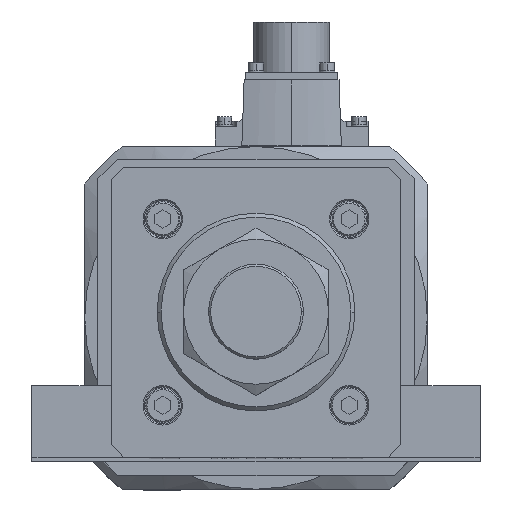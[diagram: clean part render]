
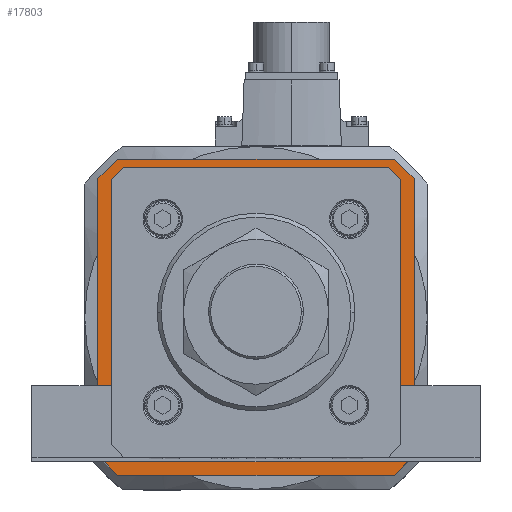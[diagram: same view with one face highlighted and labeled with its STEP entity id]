
A CAD part, top view. The second image highlights one B-rep face of the part: STEP entity #17803.
In plain terms, the highlighted planar face has unit normal (0, 0, 1).
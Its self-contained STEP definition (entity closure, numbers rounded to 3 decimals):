
#68 = CARTESIAN_POINT ( 'NONE',  ( 60., 52.5, -119. ) ) ;
#411 = ORIENTED_EDGE ( 'NONE', *, *, #23136, .F. ) ;
#505 = CARTESIAN_POINT ( 'NONE',  ( 60., -52.5, -119. ) ) ;
#567 = VECTOR ( 'NONE', #23790, 1000. ) ;
#707 = VECTOR ( 'NONE', #29341, 1000. ) ;
#949 = VECTOR ( 'NONE', #13356, 1000. ) ;
#970 = CARTESIAN_POINT ( 'NONE',  ( 49.446, -53.646, -119. ) ) ;
#1115 = VECTOR ( 'NONE', #6054, 1000. ) ;
#1549 = EDGE_CURVE ( 'NONE', #11438, #14256, #17609, .T. ) ;
#1557 = FACE_BOUND ( 'NONE', #22955, .T. ) ;
#1819 = EDGE_CURVE ( 'NONE', #15471, #25434, #36256, .T. ) ;
#2141 = LINE ( 'NONE', #33717, #27621 ) ;
#2381 = CARTESIAN_POINT ( 'NONE',  ( 60., -52.5, -119. ) ) ;
#2501 = VECTOR ( 'NONE', #27938, 1000. ) ;
#2862 = AXIS2_PLACEMENT_3D ( 'NONE', #23401, #20747, #9029 ) ;
#3210 = VERTEX_POINT ( 'NONE', #9204 ) ;
#3844 = LINE ( 'NONE', #19554, #2501 ) ;
#4178 = LINE ( 'NONE', #4957, #34235 ) ;
#4507 = CARTESIAN_POINT ( 'NONE',  ( -53.5, -49.593, -119. ) ) ;
#4801 = CARTESIAN_POINT ( 'NONE',  ( 53.5, -49.8, -119. ) ) ;
#4957 = CARTESIAN_POINT ( 'NONE',  ( -53.646, -49.446, -119. ) ) ;
#5704 = CARTESIAN_POINT ( 'NONE',  ( -49.446, 53.646, -119. ) ) ;
#5879 = CARTESIAN_POINT ( 'NONE',  ( 60., 52.5, -119. ) ) ;
#5923 = DIRECTION ( 'NONE',  ( 1., 0., 0. ) ) ;
#6054 = DIRECTION ( 'NONE',  ( 0., -1., 0. ) ) ;
#6305 = CARTESIAN_POINT ( 'NONE',  ( 60., 52.5, -119. ) ) ;
#6609 = EDGE_CURVE ( 'NONE', #14256, #31039, #3844, .T. ) ;
#6978 = ORIENTED_EDGE ( 'NONE', *, *, #13508, .F. ) ;
#7625 = VECTOR ( 'NONE', #35491, 1000. ) ;
#7836 = EDGE_CURVE ( 'NONE', #18420, #29175, #4178, .T. ) ;
#7860 = ORIENTED_EDGE ( 'NONE', *, *, #15141, .F. ) ;
#8294 = ORIENTED_EDGE ( 'NONE', *, *, #12349, .F. ) ;
#8664 = VERTEX_POINT ( 'NONE', #22615 ) ;
#8685 = EDGE_CURVE ( 'NONE', #19349, #21434, #10521, .T. ) ;
#8819 = LINE ( 'NONE', #5704, #32059 ) ;
#9029 = DIRECTION ( 'NONE',  ( 1., 0., 0. ) ) ;
#9204 = CARTESIAN_POINT ( 'NONE',  ( -52.5, -60., -119. ) ) ;
#9385 = CARTESIAN_POINT ( 'NONE',  ( -60., 52.5, -119. ) ) ;
#9425 = ORIENTED_EDGE ( 'NONE', *, *, #6609, .T. ) ;
#9454 = VERTEX_POINT ( 'NONE', #37274 ) ;
#9888 = VECTOR ( 'NONE', #23506, 1000. ) ;
#10143 = LINE ( 'NONE', #505, #567 ) ;
#10244 = ORIENTED_EDGE ( 'NONE', *, *, #19807, .F. ) ;
#10521 = LINE ( 'NONE', #9385, #23250 ) ;
#10913 = DIRECTION ( 'NONE',  ( 0., 1., 0. ) ) ;
#11438 = VERTEX_POINT ( 'NONE', #21154 ) ;
#11957 = ORIENTED_EDGE ( 'NONE', *, *, #1549, .T. ) ;
#12221 = DIRECTION ( 'NONE',  ( -1., 0., 0. ) ) ;
#12349 = EDGE_CURVE ( 'NONE', #25434, #28570, #13889, .T. ) ;
#12411 = VERTEX_POINT ( 'NONE', #32548 ) ;
#12673 = VECTOR ( 'NONE', #36114, 1000. ) ;
#13356 = DIRECTION ( 'NONE',  ( 0., -1., 0. ) ) ;
#13508 = EDGE_CURVE ( 'NONE', #28570, #12411, #10143, .T. ) ;
#13889 = LINE ( 'NONE', #6305, #1115 ) ;
#14256 = VERTEX_POINT ( 'NONE', #30839 ) ;
#15141 = EDGE_CURVE ( 'NONE', #12411, #3210, #20492, .T. ) ;
#15379 = DIRECTION ( 'NONE',  ( 0., 1., 0. ) ) ;
#15471 = VERTEX_POINT ( 'NONE', #22072 ) ;
#16002 = VERTEX_POINT ( 'NONE', #26132 ) ;
#16321 = DIRECTION ( 'NONE',  ( 0.707, 0.707, 0. ) ) ;
#16479 = EDGE_CURVE ( 'NONE', #21434, #8664, #2141, .T. ) ;
#17609 = LINE ( 'NONE', #32028, #35833 ) ;
#17632 = LINE ( 'NONE', #29875, #9888 ) ;
#17764 = EDGE_CURVE ( 'NONE', #16002, #11438, #8819, .T. ) ;
#17803 = ADVANCED_FACE ( 'NONE', ( #1557, #28909 ), #20242, .T. ) ;
#18420 = VERTEX_POINT ( 'NONE', #20460 ) ;
#19349 = VERTEX_POINT ( 'NONE', #31573 ) ;
#19458 = DIRECTION ( 'NONE',  ( -0.707, 0.707, 0. ) ) ;
#19554 = CARTESIAN_POINT ( 'NONE',  ( 53.646, 49.446, -119. ) ) ;
#19568 = VECTOR ( 'NONE', #10913, 1000. ) ;
#19807 = EDGE_CURVE ( 'NONE', #3210, #19349, #32827, .T. ) ;
#19814 = EDGE_CURVE ( 'NONE', #31039, #33794, #21426, .T. ) ;
#19995 = DIRECTION ( 'NONE',  ( -0.707, 0.707, 0. ) ) ;
#20242 = PLANE ( 'NONE',  #2862 ) ;
#20352 = LINE ( 'NONE', #970, #7625 ) ;
#20377 = ORIENTED_EDGE ( 'NONE', *, *, #8685, .F. ) ;
#20398 = LINE ( 'NONE', #27195, #12673 ) ;
#20460 = CARTESIAN_POINT ( 'NONE',  ( -49.593, -53.5, -119. ) ) ;
#20492 = LINE ( 'NONE', #35502, #22728 ) ;
#20747 = DIRECTION ( 'NONE',  ( 0., 0., 1. ) ) ;
#21154 = CARTESIAN_POINT ( 'NONE',  ( -49.593, 53.5, -119. ) ) ;
#21426 = LINE ( 'NONE', #4801, #949 ) ;
#21434 = VERTEX_POINT ( 'NONE', #29680 ) ;
#22072 = CARTESIAN_POINT ( 'NONE',  ( 52.5, 60., -119. ) ) ;
#22096 = CARTESIAN_POINT ( 'NONE',  ( -52.5, -60., -119. ) ) ;
#22128 = ORIENTED_EDGE ( 'NONE', *, *, #17764, .T. ) ;
#22615 = CARTESIAN_POINT ( 'NONE',  ( -52.5, 60., -119. ) ) ;
#22728 = VECTOR ( 'NONE', #12221, 1000. ) ;
#22955 = EDGE_LOOP ( 'NONE', ( #11957, #9425, #28323, #33840, #31278, #34256, #35224, #22128 ) ) ;
#23136 = EDGE_CURVE ( 'NONE', #8664, #15471, #17632, .T. ) ;
#23250 = VECTOR ( 'NONE', #15379, 1000. ) ;
#23401 = CARTESIAN_POINT ( 'NONE',  ( 0., 0., -119. ) ) ;
#23506 = DIRECTION ( 'NONE',  ( 1., 0., 0. ) ) ;
#23790 = DIRECTION ( 'NONE',  ( -0.707, -0.707, 0. ) ) ;
#24112 = LINE ( 'NONE', #33669, #19568 ) ;
#25434 = VERTEX_POINT ( 'NONE', #68 ) ;
#26132 = CARTESIAN_POINT ( 'NONE',  ( -53.5, 49.593, -119. ) ) ;
#26215 = EDGE_CURVE ( 'NONE', #29175, #16002, #24112, .T. ) ;
#27195 = CARTESIAN_POINT ( 'NONE',  ( -49.8, -53.5, -119. ) ) ;
#27621 = VECTOR ( 'NONE', #16321, 1000. ) ;
#27938 = DIRECTION ( 'NONE',  ( 0.707, -0.707, 0. ) ) ;
#28323 = ORIENTED_EDGE ( 'NONE', *, *, #19814, .T. ) ;
#28570 = VERTEX_POINT ( 'NONE', #2381 ) ;
#28708 = EDGE_LOOP ( 'NONE', ( #411, #35957, #20377, #10244, #7860, #6978, #8294, #31959 ) ) ;
#28909 = FACE_OUTER_BOUND ( 'NONE', #28708, .T. ) ;
#29175 = VERTEX_POINT ( 'NONE', #4507 ) ;
#29341 = DIRECTION ( 'NONE',  ( 0.707, -0.707, 0. ) ) ;
#29680 = CARTESIAN_POINT ( 'NONE',  ( -60., 52.5, -119. ) ) ;
#29875 = CARTESIAN_POINT ( 'NONE',  ( 52.5, 60., -119. ) ) ;
#30839 = CARTESIAN_POINT ( 'NONE',  ( 49.593, 53.5, -119. ) ) ;
#31039 = VERTEX_POINT ( 'NONE', #31171 ) ;
#31171 = CARTESIAN_POINT ( 'NONE',  ( 53.5, 49.593, -119. ) ) ;
#31278 = ORIENTED_EDGE ( 'NONE', *, *, #36109, .T. ) ;
#31573 = CARTESIAN_POINT ( 'NONE',  ( -60., -52.5, -119. ) ) ;
#31914 = VECTOR ( 'NONE', #19458, 1000. ) ;
#31959 = ORIENTED_EDGE ( 'NONE', *, *, #1819, .F. ) ;
#32028 = CARTESIAN_POINT ( 'NONE',  ( 49.8, 53.5, -119. ) ) ;
#32059 = VECTOR ( 'NONE', #32187, 1000. ) ;
#32187 = DIRECTION ( 'NONE',  ( 0.707, 0.707, 0. ) ) ;
#32548 = CARTESIAN_POINT ( 'NONE',  ( 52.5, -60., -119. ) ) ;
#32827 = LINE ( 'NONE', #22096, #31914 ) ;
#33234 = CARTESIAN_POINT ( 'NONE',  ( 53.5, -49.593, -119. ) ) ;
#33669 = CARTESIAN_POINT ( 'NONE',  ( -53.5, 49.8, -119. ) ) ;
#33717 = CARTESIAN_POINT ( 'NONE',  ( -52.5, 60., -119. ) ) ;
#33794 = VERTEX_POINT ( 'NONE', #33234 ) ;
#33840 = ORIENTED_EDGE ( 'NONE', *, *, #35959, .T. ) ;
#34235 = VECTOR ( 'NONE', #19995, 1000. ) ;
#34256 = ORIENTED_EDGE ( 'NONE', *, *, #7836, .T. ) ;
#35224 = ORIENTED_EDGE ( 'NONE', *, *, #26215, .T. ) ;
#35491 = DIRECTION ( 'NONE',  ( -0.707, -0.707, 0. ) ) ;
#35502 = CARTESIAN_POINT ( 'NONE',  ( 52.5, -60., -119. ) ) ;
#35833 = VECTOR ( 'NONE', #5923, 1000. ) ;
#35957 = ORIENTED_EDGE ( 'NONE', *, *, #16479, .F. ) ;
#35959 = EDGE_CURVE ( 'NONE', #33794, #9454, #20352, .T. ) ;
#36109 = EDGE_CURVE ( 'NONE', #9454, #18420, #20398, .T. ) ;
#36114 = DIRECTION ( 'NONE',  ( -1., 0., 0. ) ) ;
#36256 = LINE ( 'NONE', #5879, #707 ) ;
#37274 = CARTESIAN_POINT ( 'NONE',  ( 49.593, -53.5, -119. ) ) ;
